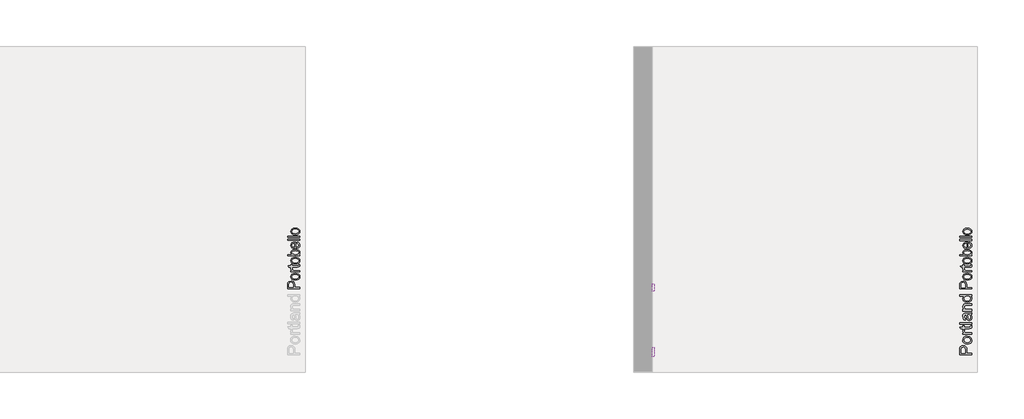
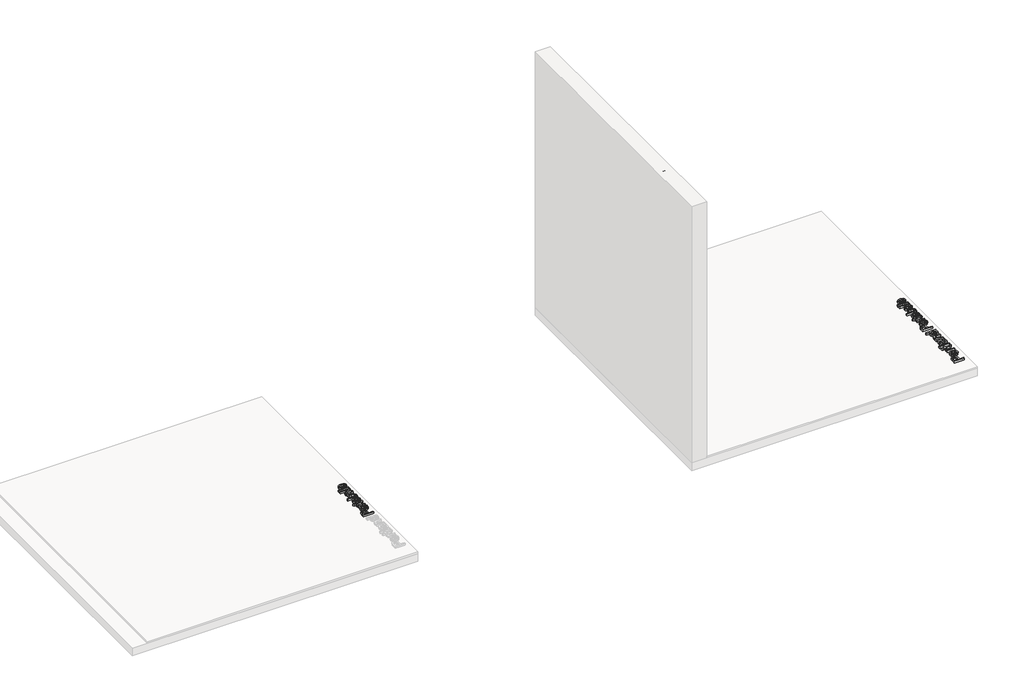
# One storey, part 12 of 14: 5 proxies.
"""IFC4 building model written with IfcOpenShell, lengths in millimetres."""

from ifc_helpers import new_model, si_unit, frame, origin, place, context, project, spatial, polyline, outline, extrude, element, save

model = new_model("IFC4")

# Units and contexts
model_context = context("Model", 3, world=origin())
ifc_project = project(units=[si_unit("LENGTHUNIT", "METRE", prefix="MILLI")], contexts=[model_context])

# Site, building, storey
site = spatial("IfcSite", under=ifc_project)
building = spatial("IfcBuilding", under=site)
storey = spatial("IfcBuildingStorey", under=building, Name="PORTOBELLO - SHOWROOM", Elevation=0.0)

# Proxies
placement = place(None, origin())
element("IfcBuildingElementProxy", 1, Name="10mm Arial", ObjectType="10mm Arial", at=placement, inside=storey, context=model_context, shape_type="SweptSolid", body=[
    extrude(outline(polyline([(197924.762263, 10117.406559), (197824.3059528, 10117.406559), (197824.3059528, 10154.6362169), (197825.262446, 10169.6458023), (197829.9590728, 10181.8472218), (197839.6711575, 10189.7566847), (197853.3686305, 10192.7487916), (197865.2082993, 10190.7285063), (197875.0736682, 10184.6676505), (197881.7323323, 10173.3338193), (197883.951887, 10155.4946082), (197883.951887, 10129.9635978), (197924.762263, 10129.9635978), (197924.762263, 10117.406559)]), holes=[polyline([(197871.3948482, 10129.9635978), (197871.3948482, 10156.2303722), (197866.7840605, 10174.7225739), (197861.2351738, 10178.8244581), (197853.8100888, 10180.1917529), (197843.4112911, 10176.966654), (197837.7213829, 10168.4931054), (197836.8629916, 10155.9360666), (197836.8629916, 10129.9635978), (197871.3948482, 10129.9635978)])]), frame((0.0, 0.0, 17.0), z_axis=(0.0, 0.0, 1.0), x_axis=(1.0, 0.0, 0.0)), (0.0, 0.0, 1.0), 20.0),
    extrude(outline(polyline([(197887.8759616, 10205.3058304), (197870.0888671, 10208.0220258), (197857.5870107, 10216.170612), (197851.4617754, 10226.2383159), (197849.4200304, 10238.2925826), (197851.9062995, 10251.4842178), (197859.365107, 10262.0209713), (197871.2078415, 10268.9279558), (197886.845892, 10271.2302839), (197909.1885919, 10267.1590565), (197921.8314698, 10255.3009935), (197926.3318928, 10238.2925826), (197923.8548207, 10224.9415319), (197916.4236044, 10214.4170411), (197904.3325495, 10207.5836331), (197887.8759616, 10205.3058304)]), holes=[polyline([(197887.8514361, 10217.8628692), (197899.2159241, 10219.316003), (197907.3123937, 10223.6754047), (197912.159239, 10230.2359669), (197913.7748541, 10238.2925826), (197912.1500419, 10246.3124101), (197907.2756055, 10252.8607096), (197899.071837, 10257.2201113), (197887.4590287, 10258.6732452), (197876.4256345, 10257.2109142), (197868.4395295, 10252.8239214), (197863.5926842, 10246.2664249), (197861.9770691, 10238.2925826), (197863.5865529, 10230.2359669), (197868.4150041, 10223.6754047), (197876.4930795, 10219.316003), (197887.8514361, 10217.8628692)])]), frame((0.0, 0.0, 17.0), z_axis=(0.0, 0.0, 1.0), x_axis=(1.0, 0.0, 0.0)), (0.0, 0.0, 1.0), 20.0),
    extrude(outline(polyline([(197924.762263, 10285.3569525), (197850.9896602, 10285.3569525), (197850.9896602, 10296.3443615), (197861.9034927, 10296.3443615), (197851.8480515, 10304.1434598), (197849.4200304, 10311.991609), (197853.2950541, 10324.5976987), (197864.5522431, 10320.403844), (197861.9770691, 10311.5746761), (197864.4541412, 10304.4745536), (197871.3212718, 10299.949605), (197885.9875007, 10297.9139913), (197924.762263, 10297.9139913), (197924.762263, 10285.3569525)])), frame((0.0, 0.0, 17.0), z_axis=(0.0, 0.0, 1.0), x_axis=(1.0, 0.0, 0.0)), (0.0, 0.0, 1.0), 20.0),
    extrude(outline(polyline([(197914.2898889, 10359.1295553), (197925.130145, 10360.6991852), (197926.3318928, 10351.3059315), (197924.2472282, 10340.7845065), (197918.7780492, 10335.5360567), (197904.5287532, 10334.0154778), (197863.546699, 10334.0154778), (197863.546699, 10324.5976987), (197853.2950541, 10324.5976987), (197850.9896602, 10324.5976987), (197850.9896602, 10334.0154778), (197833.0615443, 10334.0154778), (197825.6793789, 10346.5725165), (197850.9896602, 10346.5725165), (197850.9896602, 10359.1295553), (197863.546699, 10359.1295553), (197863.546699, 10346.5725165), (197904.1608713, 10346.5725165), (197910.6355944, 10347.2347041), (197912.9287255, 10349.3806824), (197913.7748541, 10353.6603763), (197914.2898889, 10359.1295553)])), frame((0.0, 0.0, 17.0), z_axis=(0.0, 0.0, 1.0), x_axis=(1.0, 0.0, 0.0)), (0.0, 0.0, 1.0), 20.0),
    extrude(outline(polyline([(197924.762263, 10371.6865941), (197824.3059528, 10371.6865941), (197824.3059528, 10384.2436328), (197924.762263, 10384.2436328), (197924.762263, 10371.6865941)])), frame((0.0, 0.0, 17.0), z_axis=(0.0, 0.0, 1.0), x_axis=(1.0, 0.0, 0.0)), (0.0, 0.0, 1.0), 20.0),
    extrude(outline(polyline([(197915.3444839, 10450.1680864), (197923.8548207, 10437.9911923), (197926.3318928, 10424.5389741), (197924.8419707, 10414.0451401), (197920.3722045, 10406.3042898), (197913.5847817, 10401.5310209), (197905.1418899, 10399.9399313), (197895.209076, 10402.343427), (197887.9985889, 10408.6587346), (197883.8783106, 10417.4511143), (197881.9898497, 10428.3158959), (197877.6733676, 10450.09451), (197874.8774644, 10450.1680864), (197865.6068382, 10446.7099956), (197861.9770691, 10432.8285817), (197864.3928276, 10420.1243901), (197872.9644781, 10414.0665999), (197871.3948482, 10401.5095612), (197859.132115, 10406.9419519), (197851.9461534, 10417.8803099), (197849.4200304, 10434.4472625), (197851.6518478, 10449.6653143), (197857.2559169, 10458.2614903), (197865.7785164, 10462.1119885), (197876.7659253, 10462.7251252), (197892.3886474, 10462.7251252), (197914.2040497, 10463.3627873), (197924.762263, 10465.8643848), (197924.762263, 10453.3073461), (197915.3444839, 10450.1680864)]), holes=[polyline([(197890.2304064, 10450.1680864), (197894.0809046, 10429.9100512), (197896.1165183, 10419.1065833), (197899.4274562, 10414.2137527), (197904.2589731, 10412.4969701), (197911.0525273, 10416.2371037), (197913.7748541, 10427.2122499), (197910.7704844, 10439.9164415), (197903.4986837, 10448.1079472), (197893.786599, 10450.09451), (197890.2304064, 10450.1680864)])]), frame((0.0, 0.0, 17.0), z_axis=(0.0, 0.0, 1.0), x_axis=(1.0, 0.0, 0.0)), (0.0, 0.0, 1.0), 20.0),
    extrude(outline(polyline([(197924.762263, 10479.9910535), (197850.9896602, 10479.9910535), (197850.9896602, 10492.5480922), (197861.2903561, 10492.5480922), (197852.3876118, 10502.1498123), (197849.4200304, 10515.2586741), (197851.8112633, 10527.116737), (197858.0897827, 10535.2101409), (197867.3236208, 10538.9748), (197879.4637266, 10539.6369876), (197924.762263, 10539.6369876), (197924.762263, 10527.0799488), (197881.1559838, 10527.0799488), (197870.0459476, 10525.6329463), (197864.1720984, 10520.5193866), (197861.9770691, 10511.8986852), (197866.9066879, 10498.2747886), (197874.0497299, 10493.9797663), (197885.6196187, 10492.5480922), (197924.762263, 10492.5480922), (197924.762263, 10479.9910535)])), frame((0.0, 0.0, 17.0), z_axis=(0.0, 0.0, 1.0), x_axis=(1.0, 0.0, 0.0)), (0.0, 0.0, 1.0), 20.0),
    extrude(outline(polyline([(197924.762263, 10602.4221815), (197912.9164627, 10602.4221815), (197922.9780353, 10594.1141797), (197926.3318928, 10582.6301301), (197921.4758505, 10567.0809844), (197907.9255303, 10556.0935755), (197887.949538, 10552.1940264), (197867.9612829, 10555.7870072), (197854.2024963, 10566.5536869), (197849.4200304, 10582.5810792), (197852.8413329, 10594.1570993), (197861.7318145, 10602.4221815), (197824.3059528, 10602.4221815), (197824.3059528, 10614.9792202), (197924.762263, 10614.9792202), (197924.762263, 10602.4221815)]), holes=[polyline([(197887.9004871, 10564.7510651), (197899.2588437, 10566.1674108), (197907.3369191, 10570.4164479), (197912.1653703, 10576.590734), (197913.7748541, 10583.782827), (197912.2389467, 10590.9718544), (197907.6312247, 10596.9897907), (197899.865849, 10601.0640838), (197888.8569803, 10602.4221815), (197876.8211076, 10601.0395583), (197868.4763177, 10596.8916888), (197863.6018813, 10590.7204683), (197861.9770691, 10583.2677922), (197863.5375019, 10576.0021228), (197868.2188003, 10570.0485659), (197876.2600876, 10566.0754403), (197887.9004871, 10564.7510651)])]), frame((0.0, 0.0, 17.0), z_axis=(0.0, 0.0, 1.0), x_axis=(1.0, 0.0, 0.0)), (0.0, 0.0, 1.0), 20.0),
])
element("IfcBuildingElementProxy", 2, Name="10mm Arial", ObjectType="10mm Arial", at=placement, inside=storey, context=model_context, shape_type="SweptSolid", body=[
    extrude(outline(polyline([(10102.0552811, 2558.2261649), (10102.0552811, 2658.6824751), (10139.2849391, 2658.6824751), (10154.2945245, 2657.7259819), (10166.495944, 2653.0293551), (10174.4054069, 2643.3172704), (10177.3975138, 2629.6197975), (10175.3772285, 2617.7801286), (10169.3163726, 2607.9147598), (10157.9825415, 2601.2560956), (10140.1433304, 2599.0365409), (10114.6123199, 2599.0365409), (10114.6123199, 2558.2261649), (10102.0552811, 2558.2261649)]), holes=[polyline([(10114.6123199, 2611.5935797), (10140.8790944, 2611.5935797), (10159.371296, 2616.2043674), (10163.4731802, 2621.7532541), (10164.840475, 2629.1783391), (10161.6153762, 2639.5771368), (10153.1418275, 2645.267045), (10140.5847888, 2646.1254363), (10114.6123199, 2646.1254363), (10114.6123199, 2611.5935797)])]), frame((195271.7113716, 0.0, 0.0), z_axis=(1.0, 0.0, 0.0), x_axis=(0.0, 1.0, 0.0)), (0.0, 0.0, 1.0), 20.0),
    extrude(outline(polyline([(10189.9545525, 2595.1124663), (10192.6707479, 2612.8995608), (10200.8193341, 2625.4014173), (10210.887038, 2631.5266525), (10222.9413048, 2633.5683975), (10236.13294, 2631.0821284), (10246.6696934, 2623.6233209), (10253.5766779, 2611.7805864), (10255.8790061, 2596.1425359), (10251.8077786, 2573.7998361), (10239.9497157, 2561.1569582), (10222.9413048, 2556.6565351), (10209.590254, 2559.1336072), (10199.0657633, 2566.5648235), (10192.2323552, 2578.6558784), (10189.9545525, 2595.1124663)]), holes=[polyline([(10202.5115913, 2595.1369918), (10203.9647252, 2583.7725038), (10208.3241268, 2575.6760342), (10214.8846891, 2570.829189), (10222.9413048, 2569.2135739), (10230.9611323, 2570.838386), (10237.5094318, 2575.7128224), (10241.8688334, 2583.9165909), (10243.3219673, 2595.5293992), (10241.8596364, 2606.5627934), (10237.4726436, 2614.5488984), (10230.915147, 2619.3957437), (10222.9413048, 2621.0113588), (10214.8846891, 2619.4018751), (10208.3241268, 2614.5734239), (10203.9647252, 2606.4953484), (10202.5115913, 2595.1369918)])]), frame((195271.7113716, 0.0, 0.0), z_axis=(1.0, 0.0, 0.0), x_axis=(0.0, 1.0, 0.0)), (0.0, 0.0, 1.0), 20.0),
    extrude(outline(polyline([(10270.0056747, 2558.2261649), (10270.0056747, 2631.9987677), (10280.9930836, 2631.9987677), (10280.9930836, 2621.0849352), (10288.7921819, 2631.1403764), (10296.6403311, 2633.5683975), (10309.2464208, 2629.6933739), (10305.0525661, 2618.4361848), (10296.2233982, 2621.0113588), (10289.1232757, 2618.5342867), (10284.5983271, 2611.6671561), (10282.5627134, 2597.0009272), (10282.5627134, 2558.2261649), (10270.0056747, 2558.2261649)])), frame((195271.7113716, 0.0, 0.0), z_axis=(1.0, 0.0, 0.0), x_axis=(0.0, 1.0, 0.0)), (0.0, 0.0, 1.0), 20.0),
    extrude(outline(polyline([(10343.7782774, 2568.6985391), (10345.3479073, 2557.8582829), (10335.9546537, 2556.6565351), (10325.4332286, 2558.7411997), (10320.1847788, 2564.2103787), (10318.6641999, 2578.4596747), (10318.6641999, 2619.4417289), (10309.2464208, 2619.4417289), (10309.2464208, 2629.6933739), (10309.2464208, 2631.9987677), (10318.6641999, 2631.9987677), (10318.6641999, 2649.9268836), (10331.2212387, 2657.309049), (10331.2212387, 2631.9987677), (10343.7782774, 2631.9987677), (10343.7782774, 2619.4417289), (10331.2212387, 2619.4417289), (10331.2212387, 2578.8275567), (10331.8834263, 2572.3528336), (10334.0294046, 2570.0597024), (10338.3090984, 2569.2135739), (10343.7782774, 2568.6985391)])), frame((195271.7113716, 0.0, 0.0), z_axis=(1.0, 0.0, 0.0), x_axis=(0.0, 1.0, 0.0)), (0.0, 0.0, 1.0), 20.0),
    extrude(outline(polyline([(195291.7113716, 10368.892355), (195291.7113716, 10356.3353162), (195271.7113716, 10356.3353162), (195271.7113716, 10368.892355), (195291.7113716, 10368.892355)])), frame((0.0, 0.0, 2558.2261649), z_axis=(0.0, 0.0, 1.0), x_axis=(1.0, 0.0, 0.0)), (0.0, 0.0, 1.0), 100.4563101),
    extrude(outline(polyline([(10434.8168085, 2567.643944), (10422.6399145, 2559.1336072), (10409.1876962, 2556.6565351), (10398.6938623, 2558.1464572), (10390.953012, 2562.6162234), (10386.1797431, 2569.4036462), (10384.5886534, 2577.846538), (10386.9921491, 2587.7793519), (10393.3074567, 2594.989839), (10402.0998364, 2599.1101173), (10412.964618, 2600.9985782), (10434.7432321, 2605.3150603), (10434.8168085, 2608.1109635), (10431.3587178, 2617.3815898), (10417.4773038, 2621.0113588), (10404.7731122, 2618.5956003), (10398.7153221, 2610.0239499), (10386.1582833, 2611.5935797), (10391.5906741, 2623.8563129), (10402.5290321, 2631.0422745), (10419.0959846, 2633.5683975), (10434.3140365, 2631.3365801), (10442.9102124, 2625.7325111), (10446.7607106, 2617.2099115), (10447.3738473, 2606.2225026), (10447.3738473, 2590.5997805), (10448.0115094, 2568.7843782), (10450.513107, 2558.2261649), (10437.9560682, 2558.2261649), (10434.8168085, 2567.643944)]), holes=[polyline([(10434.8168085, 2592.7580215), (10414.5587733, 2588.9075233), (10403.7553054, 2586.8719096), (10398.8624748, 2583.5609717), (10397.1456922, 2578.7294548), (10400.8858258, 2571.9359006), (10411.860972, 2569.2135739), (10424.5651636, 2572.2179435), (10432.7566693, 2579.4897443), (10434.7432321, 2589.2018289), (10434.8168085, 2592.7580215)])]), frame((195271.7113716, 0.0, 0.0), z_axis=(1.0, 0.0, 0.0), x_axis=(0.0, 1.0, 0.0)), (0.0, 0.0, 1.0), 20.0),
    extrude(outline(polyline([(10464.6397756, 2558.2261649), (10464.6397756, 2631.9987677), (10477.1968144, 2631.9987677), (10477.1968144, 2621.6980718), (10486.7985344, 2630.6008161), (10499.9073962, 2633.5683975), (10511.7654592, 2631.1771646), (10519.8588631, 2624.8986452), (10523.6235221, 2615.6648071), (10524.2857097, 2603.5247013), (10524.2857097, 2558.2261649), (10511.728671, 2558.2261649), (10511.728671, 2601.8324441), (10510.2816685, 2612.9424804), (10505.1681087, 2618.8163295), (10496.5474073, 2621.0113588), (10482.9235107, 2616.08174), (10478.6284885, 2608.938698), (10477.1968144, 2597.3688092), (10477.1968144, 2558.2261649), (10464.6397756, 2558.2261649)])), frame((195271.7113716, 0.0, 0.0), z_axis=(1.0, 0.0, 0.0), x_axis=(0.0, 1.0, 0.0)), (0.0, 0.0, 1.0), 20.0),
    extrude(outline(polyline([(10587.0709036, 2558.2261649), (10587.0709036, 2570.0719652), (10578.7629019, 2560.0103926), (10567.2788522, 2556.6565351), (10551.7297066, 2561.5125774), (10540.7422977, 2575.0628976), (10536.8427485, 2595.0388899), (10540.4357293, 2615.027145), (10551.2024091, 2628.7859316), (10567.2298013, 2633.5683975), (10578.8058214, 2630.147095), (10587.0709036, 2621.2566134), (10587.0709036, 2658.6824751), (10599.6279424, 2658.6824751), (10599.6279424, 2558.2261649), (10587.0709036, 2558.2261649)]), holes=[polyline([(10549.3997873, 2595.0879409), (10550.816133, 2583.7295843), (10555.06517, 2575.6515088), (10561.2394562, 2570.8230576), (10568.4315492, 2569.2135739), (10575.6205765, 2570.7494812), (10581.6385128, 2575.3572032), (10585.7128059, 2583.122579), (10587.0709036, 2594.1314477), (10585.6882804, 2606.1673203), (10581.5404109, 2614.5121102), (10575.3691905, 2619.3865466), (10567.9165144, 2621.0113588), (10560.650845, 2619.450926), (10554.697288, 2614.7696276), (10550.7241625, 2606.7283403), (10549.3997873, 2595.0879409)])]), frame((195271.7113716, 0.0, 0.0), z_axis=(1.0, 0.0, 0.0), x_axis=(0.0, 1.0, 0.0)), (0.0, 0.0, 1.0), 20.0),
])
element("IfcBuildingElementProxy", 3, Name="10mm Arial Narrow", ObjectType="10mm Arial Narrow", at=placement, inside=storey, context=model_context, shape_type="SweptSolid", body=[
    extrude(outline(polyline([(197924.762263, 10664.7204586), (197824.0436592, 10664.7204586), (197824.0436592, 10696.0173433), (197825.92198, 10712.3130448), (197835.4024231, 10723.786031), (197852.421532, 10728.0757094), (197864.4973575, 10726.289401), (197874.1237513, 10720.9304758), (197880.4250097, 10711.186687), (197882.5254291, 10696.2457877), (197882.5254291, 10674.4674203), (197924.762263, 10674.4674203), (197924.762263, 10664.7204586)]), holes=[polyline([(197871.1539739, 10674.4674203), (197871.1539739, 10697.4387752), (197866.6231597, 10713.3029706), (197852.9545689, 10718.3287477), (197842.7887925, 10715.8539333), (197836.9888427, 10709.8763044), (197835.4151145, 10697.2103308), (197835.4151145, 10674.4674203), (197871.1539739, 10674.4674203)])]), frame((0.0, 0.0, 17.0), z_axis=(0.0, 0.0, 1.0), x_axis=(1.0, 0.0, 0.0)), (0.0, 0.0, 1.0), 20.0),
    extrude(outline(polyline([(197888.2111568, 10736.1981774), (197871.6203812, 10738.1526463), (197859.6682964, 10744.0160529), (197852.4437418, 10752.8746196), (197850.035557, 10763.8145688), (197852.4437418, 10774.6276044), (197859.6682964, 10783.5115538), (197871.4300109, 10789.4511085), (197887.4496754, 10791.4309601), (197904.611562, 10789.4860098), (197916.7540171, 10783.6511587), (197923.9785717, 10774.8021105), (197926.3867566, 10763.8145688), (197923.9722261, 10752.9539406), (197916.7286344, 10744.0795097), (197904.7702039, 10738.1685105), (197888.2111568, 10736.1981774)]), holes=[polyline([(197888.1857741, 10745.9451391), (197900.7375255, 10747.2491759), (197909.6087835, 10751.1612865), (197914.8820421, 10757.0024833), (197916.6397949, 10764.0937786), (197914.8661779, 10770.8138518), (197909.5453268, 10776.5059251), (197900.6582045, 10780.3894801), (197888.1857741, 10781.6839985), (197875.6720967, 10780.3799616), (197866.81353, 10776.467851), (197861.5402715, 10770.6266543), (197859.7825186, 10763.5353589), (197861.54979, 10756.7676932), (197866.8516041, 10751.0851384), (197875.7196893, 10747.2301389), (197888.1857741, 10745.9451391)])]), frame((0.0, 0.0, 17.0), z_axis=(0.0, 0.0, 1.0), x_axis=(1.0, 0.0, 0.0)), (0.0, 0.0, 1.0), 20.0),
    extrude(outline(polyline([(197916.6397949, 10862.9086789), (197926.3867566, 10864.5331725), (197926.3867566, 10857.1721859), (197924.2673001, 10848.8974216), (197918.4673502, 10844.5823604), (197903.8215251, 10843.4147556), (197861.4070122, 10843.4147556), (197861.4070122, 10835.2922876), (197858.158025, 10835.2922876), (197863.0315058, 10833.667794), (197861.4070122, 10826.1037456), (197863.7295304, 10820.0245859), (197870.2148135, 10816.1537222), (197885.6221201, 10814.1738707), (197924.762263, 10814.1738707), (197924.762263, 10804.426909), (197851.6600506, 10804.426909), (197851.6600506, 10814.1738707), (197861.3562468, 10814.1738707), (197852.2692357, 10820.418018), (197850.035557, 10826.8144616), (197851.6600506, 10835.2922876), (197851.6600506, 10843.4147556), (197835.4151145, 10843.4147556), (197827.2926464, 10853.1617173), (197851.6600506, 10853.1617173), (197851.6600506, 10862.9086789), (197861.4070122, 10862.9086789), (197861.4070122, 10853.1617173), (197906.0552038, 10853.1617173), (197914.0507582, 10854.0247295), (197916.6397949, 10858.6443832), (197916.6397949, 10862.9086789)])), frame((0.0, 0.0, 17.0), z_axis=(0.0, 0.0, 1.0), x_axis=(1.0, 0.0, 0.0)), (0.0, 0.0, 1.0), 20.0),
    extrude(outline(polyline([(197888.2111568, 10869.4066534), (197871.6203812, 10871.3611222), (197859.6682964, 10877.2245289), (197852.4437418, 10886.0830956), (197850.035557, 10897.0230447), (197852.4437418, 10907.8360803), (197859.6682964, 10916.7200297), (197871.4300109, 10922.6595845), (197887.4496754, 10924.6394361), (197904.611562, 10922.6944857), (197916.7540171, 10916.8596346), (197923.9785717, 10908.0105864), (197926.3867566, 10897.0230447), (197923.9722261, 10886.1624165), (197916.7286344, 10877.2879856), (197904.7702039, 10871.3769864), (197888.2111568, 10869.4066534)]), holes=[polyline([(197888.1857741, 10879.153615), (197900.7375255, 10880.4576519), (197909.6087835, 10884.3697625), (197914.8820421, 10890.2109592), (197916.6397949, 10897.3022546), (197914.8661779, 10904.0223277), (197909.5453268, 10909.714401), (197900.6582045, 10913.5979561), (197888.1857741, 10914.8924744), (197875.6720967, 10913.5884376), (197866.81353, 10909.676327), (197861.5402715, 10903.8351302), (197859.7825186, 10896.7438349), (197861.54979, 10889.9761691), (197866.8516041, 10884.2936143), (197875.7196893, 10880.4386148), (197888.1857741, 10879.153615)])]), frame((0.0, 0.0, 17.0), z_axis=(0.0, 0.0, 1.0), x_axis=(1.0, 0.0, 0.0)), (0.0, 0.0, 1.0), 20.0),
    extrude(outline(polyline([(197924.762263, 10947.3823466), (197924.762263, 10937.6353849), (197824.0436592, 10937.6353849), (197824.0436592, 10947.3823466), (197859.4525434, 10947.3823466), (197852.3707665, 10954.7814073), (197850.035557, 10963.9826407), (197854.2363959, 10976.8643673), (197866.9658263, 10986.1417488), (197887.6527371, 10989.6191804), (197904.1070806, 10987.6869214), (197916.3098197, 10981.8901444), (197923.8675224, 10973.5170221), (197926.3867566, 10963.8557271), (197923.7723372, 10954.5148888), (197916.0052271, 10947.3823466), (197924.762263, 10947.3823466)]), holes=[polyline([(197887.6527371, 10947.3823466), (197904.9002903, 10949.463729), (197913.6319435, 10955.3525184), (197916.6397949, 10963.8049617), (197914.8503137, 10969.7476893), (197909.48187, 10974.9860466), (197888.0588605, 10979.8722188), (197866.6231597, 10975.1637256), (197861.4926789, 10969.9190226), (197859.7825186, 10963.6019), (197861.5719999, 10957.6242711), (197866.9404436, 10952.3319756), (197887.6527371, 10947.3823466)])]), frame((0.0, 0.0, 17.0), z_axis=(0.0, 0.0, 1.0), x_axis=(1.0, 0.0, 0.0)), (0.0, 0.0, 1.0), 20.0),
    extrude(outline(polyline([(197902.0193525, 11041.6029759), (197903.6438461, 11051.3499376), (197913.5304126, 11047.6504072), (197920.6502635, 11041.8314203), (197924.9526333, 11034.127767), (197926.3867566, 11024.7742374), (197923.9722261, 11013.1806834), (197916.7286344, 11004.0365612), (197904.9225002, 10998.0970064), (197888.8203419, 10996.1171549), (197872.1534182, 10998.106525), (197859.972889, 11004.0746353), (197852.51989, 11013.0886711), (197850.035557, 11024.2158178), (197852.4342233, 11034.8987669), (197859.6302223, 11043.6462843), (197871.3697269, 11049.4811353), (197887.39891, 11051.4260857), (197890.6478972, 11051.3499376), (197890.6478972, 11005.8641165), (197910.0910551, 11011.8671281), (197915.00261, 11017.7971643), (197916.6397949, 11024.901151), (197912.9846843, 11035.0796188), (197902.0193525, 11041.6029759)]), holes=[polyline([(197880.9009355, 11006.524067), (197880.9009355, 11041.6029759), (197866.635851, 11037.3386802), (197861.4958517, 11031.5133476), (197859.7825186, 11024.2919659), (197865.493629, 11012.0828811), (197880.9009355, 11006.524067)])]), frame((0.0, 0.0, 17.0), z_axis=(0.0, 0.0, 1.0), x_axis=(1.0, 0.0, 0.0)), (0.0, 0.0, 1.0), 20.0),
    extrude(outline(polyline([(197924.762263, 11064.3458864), (197824.0436592, 11064.3458864), (197824.0436592, 11074.0928481), (197924.762263, 11074.0928481), (197924.762263, 11064.3458864)])), frame((0.0, 0.0, 17.0), z_axis=(0.0, 0.0, 1.0), x_axis=(1.0, 0.0, 0.0)), (0.0, 0.0, 1.0), 20.0),
    extrude(outline(polyline([(197924.762263, 11090.3377842), (197824.0436592, 11090.3377842), (197824.0436592, 11100.0847458), (197924.762263, 11100.0847458), (197924.762263, 11090.3377842)])), frame((0.0, 0.0, 17.0), z_axis=(0.0, 0.0, 1.0), x_axis=(1.0, 0.0, 0.0)), (0.0, 0.0, 1.0), 20.0),
    extrude(outline(polyline([(197888.2111568, 11111.4562011), (197871.6203812, 11113.41067), (197859.6682964, 11119.2740766), (197852.4437418, 11128.1326433), (197850.035557, 11139.0725924), (197852.4437418, 11149.885628), (197859.6682964, 11158.7695775), (197871.4300109, 11164.7091322), (197887.4496754, 11166.6889838), (197904.611562, 11164.7440334), (197916.7540171, 11158.9091824), (197923.9785717, 11150.0601342), (197926.3867566, 11139.0725924), (197923.9722261, 11128.2119643), (197916.7286344, 11119.3375334), (197904.7702039, 11113.4265342), (197888.2111568, 11111.4562011)]), holes=[polyline([(197888.1857741, 11121.2031627), (197900.7375255, 11122.5071996), (197909.6087835, 11126.4193102), (197914.8820421, 11132.2605069), (197916.6397949, 11139.3518023), (197914.8661779, 11146.0718755), (197909.5453268, 11151.7639488), (197900.6582045, 11155.6475038), (197888.1857741, 11156.9420221), (197875.6720967, 11155.6379853), (197866.81353, 11151.7258747), (197861.5402715, 11145.8846779), (197859.7825186, 11138.7933826), (197861.54979, 11132.0257168), (197866.8516041, 11126.3431621), (197875.7196893, 11122.4881626), (197888.1857741, 11121.2031627)])]), frame((0.0, 0.0, 17.0), z_axis=(0.0, 0.0, 1.0), x_axis=(1.0, 0.0, 0.0)), (0.0, 0.0, 1.0), 20.0),
])
element("IfcBuildingElementProxy", 4, Name="10mm Arial Narrow", ObjectType="10mm Arial Narrow", at=placement, inside=storey, context=model_context, shape_type="SweptSolid", body=[
    extrude(outline(polyline([(192349.2928516, 10665.4554775), (192248.5742479, 10665.4554775), (192248.5742479, 10696.7523622), (192250.4525686, 10713.0480637), (192259.9330118, 10724.5210498), (192276.9521206, 10728.8107283), (192289.0279461, 10727.0244198), (192298.6543399, 10721.6654946), (192304.9555983, 10711.9217058), (192307.0560178, 10696.9808066), (192307.0560178, 10675.2024392), (192349.2928516, 10675.2024392), (192349.2928516, 10665.4554775)]), holes=[polyline([(192295.6845625, 10675.2024392), (192295.6845625, 10698.1737941), (192291.1537483, 10714.0379895), (192277.4851576, 10719.0637666), (192267.3193812, 10716.5889521), (192261.5194313, 10710.6113233), (192259.9457031, 10697.9453497), (192259.9457031, 10675.2024392), (192295.6845625, 10675.2024392)])]), frame((0.0, 0.0, 17.0), z_axis=(0.0, 0.0, 1.0), x_axis=(1.0, 0.0, 0.0)), (0.0, 0.0, 1.0), 20.0),
    extrude(outline(polyline([(192312.7417454, 10736.9331963), (192296.1509699, 10738.8876652), (192284.1988851, 10744.7510718), (192276.9743305, 10753.6096385), (192274.5661456, 10764.5495876), (192276.9743305, 10775.3626232), (192284.1988851, 10784.2465727), (192295.9605995, 10790.1861274), (192311.980264, 10792.165979), (192329.1421506, 10790.2210286), (192341.2846058, 10784.3861776), (192348.5091604, 10775.5371294), (192350.9173452, 10764.5495876), (192348.5028147, 10753.6889595), (192341.2592231, 10744.8145286), (192329.3007926, 10738.9035294), (192312.7417454, 10736.9331963)]), holes=[polyline([(192312.7163627, 10746.6801579), (192325.2681141, 10747.9841948), (192334.1393722, 10751.8963054), (192339.4126307, 10757.7375021), (192341.1703836, 10764.8287975), (192339.3967665, 10771.5488707), (192334.0759154, 10777.240944), (192325.1887931, 10781.124499), (192312.7163627, 10782.4190173), (192300.2026854, 10781.1149805), (192291.3441187, 10777.2028699), (192286.0708601, 10771.3616732), (192284.3131073, 10764.2703778), (192286.0803786, 10757.5027121), (192291.3821927, 10751.8201573), (192300.250278, 10747.9651578), (192312.7163627, 10746.6801579)])]), frame((0.0, 0.0, 17.0), z_axis=(0.0, 0.0, 1.0), x_axis=(1.0, 0.0, 0.0)), (0.0, 0.0, 1.0), 20.0),
    extrude(outline(polyline([(192341.1703836, 10863.6436978), (192350.9173452, 10865.2681914), (192350.9173452, 10857.9072047), (192348.7978887, 10849.6324404), (192342.9979389, 10845.3173793), (192328.3521137, 10844.1497745), (192285.9376009, 10844.1497745), (192285.9376009, 10836.0273064), (192282.6886137, 10836.0273064), (192287.5620945, 10834.4028128), (192285.9376009, 10826.8387645), (192288.2601191, 10820.7596048), (192294.7454022, 10816.8887411), (192310.1527087, 10814.9088895), (192349.2928516, 10814.9088895), (192349.2928516, 10805.1619279), (192276.1906392, 10805.1619279), (192276.1906392, 10814.9088895), (192285.8868354, 10814.9088895), (192276.7998243, 10821.1530368), (192274.5661456, 10827.5494804), (192276.1906392, 10836.0273064), (192276.1906392, 10844.1497745), (192259.9457031, 10844.1497745), (192251.8232351, 10853.8967361), (192276.1906392, 10853.8967361), (192276.1906392, 10863.6436978), (192285.9376009, 10863.6436978), (192285.9376009, 10853.8967361), (192330.5857924, 10853.8967361), (192338.5813469, 10854.7597484), (192341.1703836, 10859.3794021), (192341.1703836, 10863.6436978)])), frame((0.0, 0.0, 17.0), z_axis=(0.0, 0.0, 1.0), x_axis=(1.0, 0.0, 0.0)), (0.0, 0.0, 1.0), 20.0),
    extrude(outline(polyline([(192312.7417454, 10870.1416722), (192296.1509699, 10872.0961411), (192284.1988851, 10877.9595477), (192276.9743305, 10886.8181144), (192274.5661456, 10897.7580636), (192276.9743305, 10908.5710992), (192284.1988851, 10917.4550486), (192295.9605995, 10923.3946033), (192311.980264, 10925.3744549), (192329.1421506, 10923.4295046), (192341.2846058, 10917.5946535), (192348.5091604, 10908.7456053), (192350.9173452, 10897.7580636), (192348.5028147, 10886.8974354), (192341.2592231, 10878.0230045), (192329.3007926, 10872.1120053), (192312.7417454, 10870.1416722)]), holes=[polyline([(192312.7163627, 10879.8886339), (192325.2681141, 10881.1926707), (192334.1393722, 10885.1047813), (192339.4126307, 10890.9459781), (192341.1703836, 10898.0372734), (192339.3967665, 10904.7573466), (192334.0759154, 10910.4494199), (192325.1887931, 10914.3329749), (192312.7163627, 10915.6274933), (192300.2026854, 10914.3234564), (192291.3441187, 10910.4113458), (192286.0708601, 10904.5701491), (192284.3131073, 10897.4788537), (192286.0803786, 10890.711188), (192291.3821927, 10885.0286332), (192300.250278, 10881.1736337), (192312.7163627, 10879.8886339)])]), frame((0.0, 0.0, 17.0), z_axis=(0.0, 0.0, 1.0), x_axis=(1.0, 0.0, 0.0)), (0.0, 0.0, 1.0), 20.0),
    extrude(outline(polyline([(192349.2928516, 10948.1173655), (192349.2928516, 10938.3704038), (192248.5742479, 10938.3704038), (192248.5742479, 10948.1173655), (192283.983132, 10948.1173655), (192276.9013552, 10955.5164262), (192274.5661456, 10964.7176595), (192278.7669846, 10977.5993862), (192291.4964149, 10986.8767677), (192312.1833257, 10990.3541993), (192328.6376692, 10988.4219403), (192340.8404083, 10982.6251633), (192348.398111, 10974.252041), (192350.9173452, 10964.590746), (192348.3029258, 10955.2499077), (192340.5358158, 10948.1173655), (192349.2928516, 10948.1173655)]), holes=[polyline([(192312.1833257, 10948.1173655), (192329.430879, 10950.1987479), (192338.1625321, 10956.0875372), (192341.1703836, 10964.5399805), (192339.3809023, 10970.4827081), (192334.0124586, 10975.7210655), (192312.5894491, 10980.6072376), (192291.1537483, 10975.8987444), (192286.0232675, 10970.6540414), (192284.3131073, 10964.3369188), (192286.1025885, 10958.35929), (192291.4710322, 10953.0669944), (192312.1833257, 10948.1173655)])]), frame((0.0, 0.0, 17.0), z_axis=(0.0, 0.0, 1.0), x_axis=(1.0, 0.0, 0.0)), (0.0, 0.0, 1.0), 20.0),
    extrude(outline(polyline([(192326.5499411, 11042.3379948), (192328.1744347, 11052.0849564), (192338.0610013, 11048.3854261), (192345.1808522, 11042.5664392), (192349.483222, 11034.8627859), (192350.9173452, 11025.5092563), (192348.5028147, 11013.9157023), (192341.2592231, 11004.7715801), (192329.4530889, 10998.8320253), (192313.3509305, 10996.8521737), (192296.6840068, 10998.8415438), (192284.5034776, 11004.8096541), (192277.0504786, 11013.82369), (192274.5661456, 11024.9508366), (192276.964812, 11035.6337858), (192284.160811, 11044.3813031), (192295.9003156, 11050.2161542), (192311.9294986, 11052.1611046), (192315.1784858, 11052.0849564), (192315.1784858, 11006.5991354), (192334.6216437, 11012.6021469), (192339.5331986, 11018.5321832), (192341.1703836, 11025.6361699), (192337.515273, 11035.8146376), (192326.5499411, 11042.3379948)]), holes=[polyline([(192305.4315242, 11007.2590859), (192305.4315242, 11042.3379948), (192291.1664397, 11038.073699), (192286.0264404, 11032.2483665), (192284.3131073, 11025.0269848), (192290.0242176, 11012.8179), (192305.4315242, 11007.2590859)])]), frame((0.0, 0.0, 17.0), z_axis=(0.0, 0.0, 1.0), x_axis=(1.0, 0.0, 0.0)), (0.0, 0.0, 1.0), 20.0),
    extrude(outline(polyline([(192349.2928516, 11065.0809053), (192248.5742479, 11065.0809053), (192248.5742479, 11074.827867), (192349.2928516, 11074.827867), (192349.2928516, 11065.0809053)])), frame((0.0, 0.0, 17.0), z_axis=(0.0, 0.0, 1.0), x_axis=(1.0, 0.0, 0.0)), (0.0, 0.0, 1.0), 20.0),
    extrude(outline(polyline([(192349.2928516, 11091.072803), (192248.5742479, 11091.072803), (192248.5742479, 11100.8197647), (192349.2928516, 11100.8197647), (192349.2928516, 11091.072803)])), frame((0.0, 0.0, 17.0), z_axis=(0.0, 0.0, 1.0), x_axis=(1.0, 0.0, 0.0)), (0.0, 0.0, 1.0), 20.0),
    extrude(outline(polyline([(192312.7417454, 11112.19122), (192296.1509699, 11114.1456888), (192284.1988851, 11120.0090954), (192276.9743305, 11128.8676622), (192274.5661456, 11139.8076113), (192276.9743305, 11150.6206469), (192284.1988851, 11159.5045963), (192295.9605995, 11165.4441511), (192311.980264, 11167.4240027), (192329.1421506, 11165.4790523), (192341.2846058, 11159.6442012), (192348.5091604, 11150.795153), (192350.9173452, 11139.8076113), (192348.5028147, 11128.9469831), (192341.2592231, 11120.0725522), (192329.3007926, 11114.161553), (192312.7417454, 11112.19122)]), holes=[polyline([(192312.7163627, 11121.9381816), (192325.2681141, 11123.2422185), (192334.1393722, 11127.1543291), (192339.4126307, 11132.9955258), (192341.1703836, 11140.0868211), (192339.3967665, 11146.8068943), (192334.0759154, 11152.4989676), (192325.1887931, 11156.3825227), (192312.7163627, 11157.677041), (192300.2026854, 11156.3730041), (192291.3441187, 11152.4608936), (192286.0708601, 11146.6196968), (192284.3131073, 11139.5284015), (192286.0803786, 11132.7607357), (192291.3821927, 11127.0781809), (192300.250278, 11123.2231814), (192312.7163627, 11121.9381816)])]), frame((0.0, 0.0, 17.0), z_axis=(0.0, 0.0, 1.0), x_axis=(1.0, 0.0, 0.0)), (0.0, 0.0, 1.0), 20.0),
])
element("IfcBuildingElementProxy", 5, Name="10mm Arial Narrow", ObjectType="10mm Arial Narrow", at=placement, inside=storey, context=model_context, shape_type="SweptSolid", body=[
    extrude(outline(polyline([(10644.1903403, 2558.2261649), (10644.1903403, 2658.9447687), (10675.4872249, 2658.9447687), (10691.7829265, 2657.066448), (10703.2559126, 2647.5860048), (10707.545591, 2630.566896), (10705.7592826, 2618.4910704), (10700.4003574, 2608.8646767), (10690.6565686, 2602.5634182), (10675.7156694, 2600.4629988), (10653.9373019, 2600.4629988), (10653.9373019, 2558.2261649), (10644.1903403, 2558.2261649)]), holes=[polyline([(10653.9373019, 2611.834454), (10676.9086569, 2611.834454), (10692.7728523, 2616.3652682), (10697.7986294, 2630.033859), (10695.3238149, 2640.1996354), (10689.346186, 2645.9995852), (10676.6802124, 2647.5733134), (10653.9373019, 2647.5733134), (10653.9373019, 2611.834454)])]), frame((195271.7113716, 0.0, 0.0), z_axis=(1.0, 0.0, 0.0), x_axis=(0.0, 1.0, 0.0)), (0.0, 0.0, 1.0), 20.0),
    extrude(outline(polyline([(10715.6680591, 2594.7772711), (10717.6225279, 2611.3680467), (10723.4859345, 2623.3201315), (10732.3445013, 2630.5446861), (10743.2844504, 2632.9528709), (10754.097486, 2630.5446861), (10762.9814354, 2623.3201315), (10768.9209902, 2611.558417), (10770.9008418, 2595.5387525), (10768.9558914, 2578.3768659), (10763.1210403, 2566.2344108), (10754.2719921, 2559.0098562), (10743.2844504, 2556.6016713), (10732.4238222, 2559.0162019), (10723.5493913, 2566.2597935), (10717.6383921, 2578.218224), (10715.6680591, 2594.7772711)]), holes=[polyline([(10725.4150207, 2594.8026538), (10726.7190576, 2582.2509024), (10730.6311682, 2573.3796444), (10736.4723649, 2568.1063858), (10743.5636602, 2566.348633), (10750.2837334, 2568.12225), (10755.9758067, 2573.4431012), (10759.8593618, 2582.3302234), (10761.1538801, 2594.8026538), (10759.8498432, 2607.3163312), (10755.9377327, 2616.1748979), (10750.0965359, 2621.4481564), (10743.0052406, 2623.2059093), (10736.2375748, 2621.4386379), (10730.55502, 2616.1368238), (10726.7000205, 2607.2687386), (10725.4150207, 2594.8026538)])]), frame((195271.7113716, 0.0, 0.0), z_axis=(1.0, 0.0, 0.0), x_axis=(0.0, 1.0, 0.0)), (0.0, 0.0, 1.0), 20.0),
    extrude(outline(polyline([(10842.3785606, 2566.348633), (10844.0030542, 2556.6016713), (10836.6420675, 2556.6016713), (10828.3673032, 2558.7211278), (10824.052242, 2564.5210777), (10822.8846372, 2579.1669029), (10822.8846372, 2621.5814157), (10814.7621692, 2621.5814157), (10814.7621692, 2624.8304029), (10813.1376756, 2619.9569221), (10805.5736272, 2621.5814157), (10799.4944675, 2619.2588975), (10795.6236039, 2612.7736144), (10793.6437523, 2597.3663078), (10793.6437523, 2558.2261649), (10783.8967906, 2558.2261649), (10783.8967906, 2631.3283773), (10793.6437523, 2631.3283773), (10793.6437523, 2621.6321811), (10799.8878996, 2630.7191922), (10806.2843432, 2632.9528709), (10814.7621692, 2631.3283773), (10822.8846372, 2631.3283773), (10822.8846372, 2647.5733134), (10832.6315989, 2655.6957815), (10832.6315989, 2631.3283773), (10842.3785606, 2631.3283773), (10842.3785606, 2621.5814157), (10832.6315989, 2621.5814157), (10832.6315989, 2576.9332242), (10833.4946111, 2568.9376697), (10838.1142648, 2566.348633), (10842.3785606, 2566.348633)])), frame((195271.7113716, 0.0, 0.0), z_axis=(1.0, 0.0, 0.0), x_axis=(0.0, 1.0, 0.0)), (0.0, 0.0, 1.0), 20.0),
    extrude(outline(polyline([(10848.876535, 2594.7772711), (10850.8310039, 2611.3680467), (10856.6944105, 2623.3201315), (10865.5529772, 2630.5446861), (10876.4929263, 2632.9528709), (10887.3059619, 2630.5446861), (10896.1899113, 2623.3201315), (10902.1294661, 2611.558417), (10904.1093177, 2595.5387525), (10902.1643673, 2578.3768659), (10896.3295163, 2566.2344108), (10887.4804681, 2559.0098562), (10876.4929263, 2556.6016713), (10865.6322982, 2559.0162019), (10856.7578673, 2566.2597935), (10850.8468681, 2578.218224), (10848.876535, 2594.7772711)]), holes=[polyline([(10858.6234966, 2594.8026538), (10859.9275335, 2582.2509024), (10863.8396441, 2573.3796444), (10869.6808408, 2568.1063858), (10876.7721362, 2566.348633), (10883.4922093, 2568.12225), (10889.1842827, 2573.4431012), (10893.0678377, 2582.3302234), (10894.362356, 2594.8026538), (10893.0583192, 2607.3163312), (10889.1462086, 2616.1748979), (10883.3050118, 2621.4481564), (10876.2137165, 2623.2059093), (10869.4460507, 2621.4386379), (10863.7634959, 2616.1368238), (10859.9084965, 2607.2687386), (10858.6234966, 2594.8026538)])]), frame((195271.7113716, 0.0, 0.0), z_axis=(1.0, 0.0, 0.0), x_axis=(0.0, 1.0, 0.0)), (0.0, 0.0, 1.0), 20.0),
    extrude(outline(polyline([(10926.8522282, 2558.2261649), (10917.1052666, 2558.2261649), (10917.1052666, 2658.9447687), (10926.8522282, 2658.9447687), (10926.8522282, 2623.5358846), (10934.2512889, 2630.6176614), (10943.4525223, 2632.9528709), (10956.3342489, 2628.752032), (10965.6116304, 2616.0226016), (10969.089062, 2595.3356908), (10967.156803, 2578.8813473), (10961.360026, 2566.6786082), (10952.9869037, 2559.1209056), (10943.3256087, 2556.6016713), (10933.9847705, 2559.2160907), (10926.8522282, 2566.9832008), (10926.8522282, 2558.2261649)]), holes=[polyline([(10926.8522282, 2595.3356908), (10928.9336107, 2578.0881376), (10934.8224, 2569.3564844), (10943.2748433, 2566.348633), (10949.2175709, 2568.1381142), (10954.4559282, 2573.5065579), (10959.3421004, 2594.9295674), (10954.6336072, 2616.3652682), (10949.3889042, 2621.495749), (10943.0717816, 2623.2059093), (10937.0941528, 2621.4164281), (10931.8018572, 2616.0479843), (10926.8522282, 2595.3356908)])]), frame((195271.7113716, 0.0, 0.0), z_axis=(1.0, 0.0, 0.0), x_axis=(0.0, 1.0, 0.0)), (0.0, 0.0, 1.0), 20.0),
    extrude(outline(polyline([(11021.0728575, 2580.9690755), (11030.8198192, 2579.3445819), (11027.1202888, 2569.4580153), (11021.3013019, 2562.3381644), (11013.5976487, 2558.0357946), (11004.2441191, 2556.6016713), (10992.6505651, 2559.0162019), (10983.5064428, 2566.2597935), (10977.5668881, 2578.0659277), (10975.5870365, 2594.168086), (10977.5764066, 2610.8350097), (10983.5445169, 2623.0155389), (10992.5585527, 2630.4685379), (11003.6856994, 2632.9528709), (11014.3686486, 2630.5542046), (11023.1161659, 2623.3582056), (11028.951017, 2611.618701), (11030.8959673, 2595.5895179), (11030.8198192, 2592.3405307), (10985.3339981, 2592.3405307), (10991.3370097, 2572.8973728), (10997.2670459, 2567.9858179), (11004.3710326, 2566.348633), (11014.5495004, 2570.0037436), (11021.0728575, 2580.9690755)]), holes=[polyline([(10985.9939487, 2602.0874924), (11021.0728575, 2602.0874924), (11016.8085618, 2616.3525769), (11010.9832293, 2621.4925762), (11003.7618475, 2623.2059093), (10991.5527627, 2617.4947989), (10985.9939487, 2602.0874924)])]), frame((195271.7113716, 0.0, 0.0), z_axis=(1.0, 0.0, 0.0), x_axis=(0.0, 1.0, 0.0)), (0.0, 0.0, 1.0), 20.0),
    extrude(outline(polyline([(195291.7113716, 11053.5627297), (195291.7113716, 11043.8157681), (195271.7113716, 11043.8157681), (195271.7113716, 11053.5627297), (195291.7113716, 11053.5627297)])), frame((0.0, 0.0, 2558.2261649), z_axis=(0.0, 0.0, 1.0), x_axis=(1.0, 0.0, 0.0)), (0.0, 0.0, 1.0), 100.7186038),
    extrude(outline(polyline([(195291.7113716, 11079.5546275), (195291.7113716, 11069.8076658), (195271.7113716, 11069.8076658), (195271.7113716, 11079.5546275), (195291.7113716, 11079.5546275)])), frame((0.0, 0.0, 2558.2261649), z_axis=(0.0, 0.0, 1.0), x_axis=(1.0, 0.0, 0.0)), (0.0, 0.0, 1.0), 100.7186038),
    extrude(outline(polyline([(11090.9260827, 2594.7772711), (11092.8805516, 2611.3680467), (11098.7439582, 2623.3201315), (11107.6025249, 2630.5446861), (11118.5424741, 2632.9528709), (11129.3555097, 2630.5446861), (11138.2394591, 2623.3201315), (11144.1790138, 2611.558417), (11146.1588654, 2595.5387525), (11144.2139151, 2578.3768659), (11138.379064, 2566.2344108), (11129.5300158, 2559.0098562), (11118.5424741, 2556.6016713), (11107.6818459, 2559.0162019), (11098.807415, 2566.2597935), (11092.8964158, 2578.218224), (11090.9260827, 2594.7772711)]), holes=[polyline([(11100.6730444, 2594.8026538), (11101.9770812, 2582.2509024), (11105.8891918, 2573.3796444), (11111.7303886, 2568.1063858), (11118.8216839, 2566.348633), (11125.5417571, 2568.12225), (11131.2338304, 2573.4431012), (11135.1173854, 2582.3302234), (11136.4119038, 2594.8026538), (11135.1078669, 2607.3163312), (11131.1957563, 2616.1748979), (11125.3545596, 2621.4481564), (11118.2632642, 2623.2059093), (11111.4955985, 2621.4386379), (11105.8130437, 2616.1368238), (11101.9580442, 2607.2687386), (11100.6730444, 2594.8026538)])]), frame((195271.7113716, 0.0, 0.0), z_axis=(1.0, 0.0, 0.0), x_axis=(0.0, 1.0, 0.0)), (0.0, 0.0, 1.0), 20.0),
])

save(model, "model.ifc")
